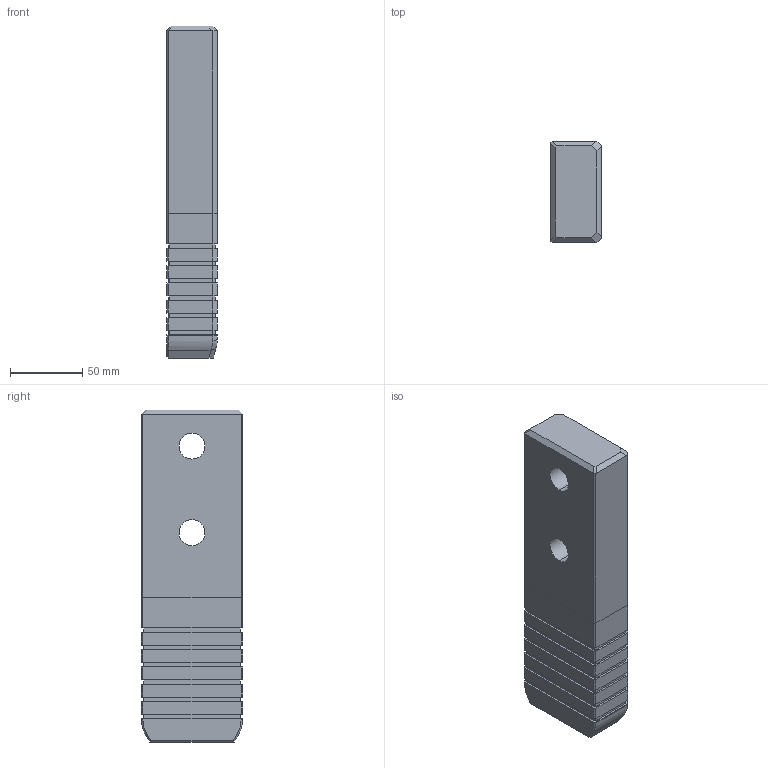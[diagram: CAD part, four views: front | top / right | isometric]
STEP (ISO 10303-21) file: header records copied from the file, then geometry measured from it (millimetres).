
FILE_DESCRIPTION((''),'2;1');
FILE_NAME('','2010-09-22T13:22:51+09:00',('misumi'),(''),'M/STEP i/f 1R2-14','CADmeister v5.1','');
FILE_SCHEMA(('AUTOMOTIVE_DESIGN'));
Length unit declared in the file: millimetre
Products named in the file (1): GWAZ70-230
Bounding box: 35 x 70 x 230 mm (x, y, z)
Volume: 533961.6 mm3; surface area: 57443.8 mm2
Topology: 1 solids, 1 shells, 157 faces, 407 edges, 264 vertices
Faces by surface type: plane 142, cylinder 7, bspline 6, cone 2
Entity records: 5059 total; most frequent: CARTESIAN_POINT 1171, ORIENTED_EDGE 814, DIRECTION 705, EDGE_CURVE 407, LINE 377, VECTOR 377, VERTEX_POINT 264, EDGE_LOOP 173
